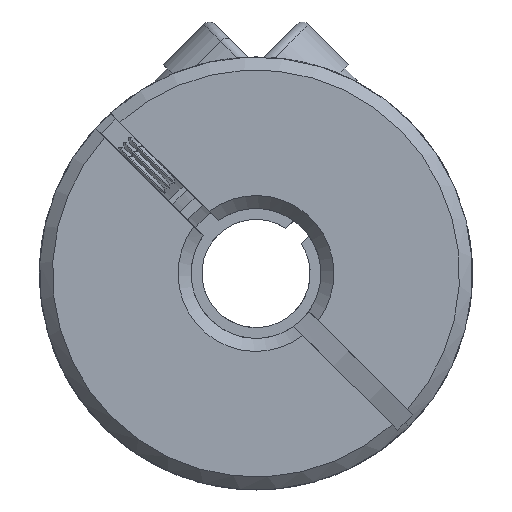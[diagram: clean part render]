
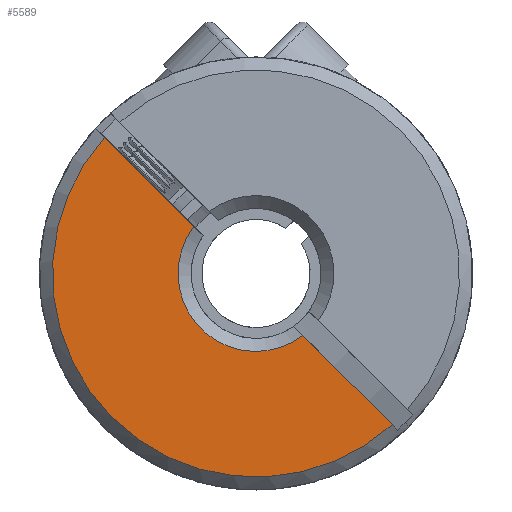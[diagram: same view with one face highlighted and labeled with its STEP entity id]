
A CAD part, front view. The second image highlights one B-rep face of the part: STEP entity #5589.
In plain terms, the highlighted planar face has unit normal (0, -1, 0).
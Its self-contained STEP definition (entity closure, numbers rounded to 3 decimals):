
#670 = EDGE_CURVE ( 'NONE', #13012, #5842, #14748, .T. ) ;
#810 = DIRECTION ( 'NONE',  ( 0., -1., 0. ) ) ;
#1981 = CARTESIAN_POINT ( 'NONE',  ( -8.839, -11.2, 8.132 ) ) ;
#2000 = CARTESIAN_POINT ( 'NONE',  ( 6.284, -11.2, -6.991 ) ) ;
#2027 = VECTOR ( 'NONE', #5439, 1000. ) ;
#2364 = FACE_OUTER_BOUND ( 'NONE', #3525, .T. ) ;
#2924 = DIRECTION ( 'NONE',  ( -0.707, 0., 0.707 ) ) ;
#3005 = VERTEX_POINT ( 'NONE', #10271 ) ;
#3125 = DIRECTION ( 'NONE',  ( -0.707, 0., 0.707 ) ) ;
#3525 = EDGE_LOOP ( 'NONE', ( #12996, #9716, #9566, #9027 ) ) ;
#3740 = CARTESIAN_POINT ( 'NONE',  ( 2.167, -11.2, -2.874 ) ) ;
#4477 = LINE ( 'NONE', #11107, #14483 ) ;
#4766 = VERTEX_POINT ( 'NONE', #3740 ) ;
#5079 = LINE ( 'NONE', #1981, #2027 ) ;
#5439 = DIRECTION ( 'NONE',  ( -0.707, 0., 0.707 ) ) ;
#5589 = ADVANCED_FACE ( 'NONE', ( #2364 ), #8867, .T. ) ;
#5842 = VERTEX_POINT ( 'NONE', #2000 ) ;
#5873 = CARTESIAN_POINT ( 'NONE',  ( 0., -11.2, 0. ) ) ;
#6382 = DIRECTION ( 'NONE',  ( 0., 1., 0. ) ) ;
#8867 = PLANE ( 'NONE',  #13471 ) ;
#9027 = ORIENTED_EDGE ( 'NONE', *, *, #9804, .T. ) ;
#9175 = EDGE_CURVE ( 'NONE', #3005, #13012, #4477, .T. ) ;
#9566 = ORIENTED_EDGE ( 'NONE', *, *, #13447, .T. ) ;
#9693 = AXIS2_PLACEMENT_3D ( 'NONE', #5873, #14008, #13912 ) ;
#9716 = ORIENTED_EDGE ( 'NONE', *, *, #670, .T. ) ;
#9804 = EDGE_CURVE ( 'NONE', #4766, #3005, #14469, .T. ) ;
#10271 = CARTESIAN_POINT ( 'NONE',  ( -2.874, -11.2, 2.167 ) ) ;
#11107 = CARTESIAN_POINT ( 'NONE',  ( 0.205, -11.2, -0.912 ) ) ;
#11325 = CARTESIAN_POINT ( 'NONE',  ( -6.991, -11.2, 6.284 ) ) ;
#12996 = ORIENTED_EDGE ( 'NONE', *, *, #9175, .T. ) ;
#13012 = VERTEX_POINT ( 'NONE', #11325 ) ;
#13354 = DIRECTION ( 'NONE',  ( -0.707, 0., 0.707 ) ) ;
#13447 = EDGE_CURVE ( 'NONE', #5842, #4766, #5079, .T. ) ;
#13471 = AXIS2_PLACEMENT_3D ( 'NONE', #14736, #810, #3125 ) ;
#13912 = DIRECTION ( 'NONE',  ( -0.707, 0., 0.707 ) ) ;
#14008 = DIRECTION ( 'NONE',  ( 0., -1., 0. ) ) ;
#14116 = AXIS2_PLACEMENT_3D ( 'NONE', #14496, #6382, #2924 ) ;
#14469 = CIRCLE ( 'NONE', #14116, 3.6 ) ;
#14483 = VECTOR ( 'NONE', #13354, 1000. ) ;
#14496 = CARTESIAN_POINT ( 'NONE',  ( 0., -11.2, 0. ) ) ;
#14736 = CARTESIAN_POINT ( 'NONE',  ( 45.083, -11.2, 25.627 ) ) ;
#14748 = CIRCLE ( 'NONE', #9693, 9.4 ) ;
